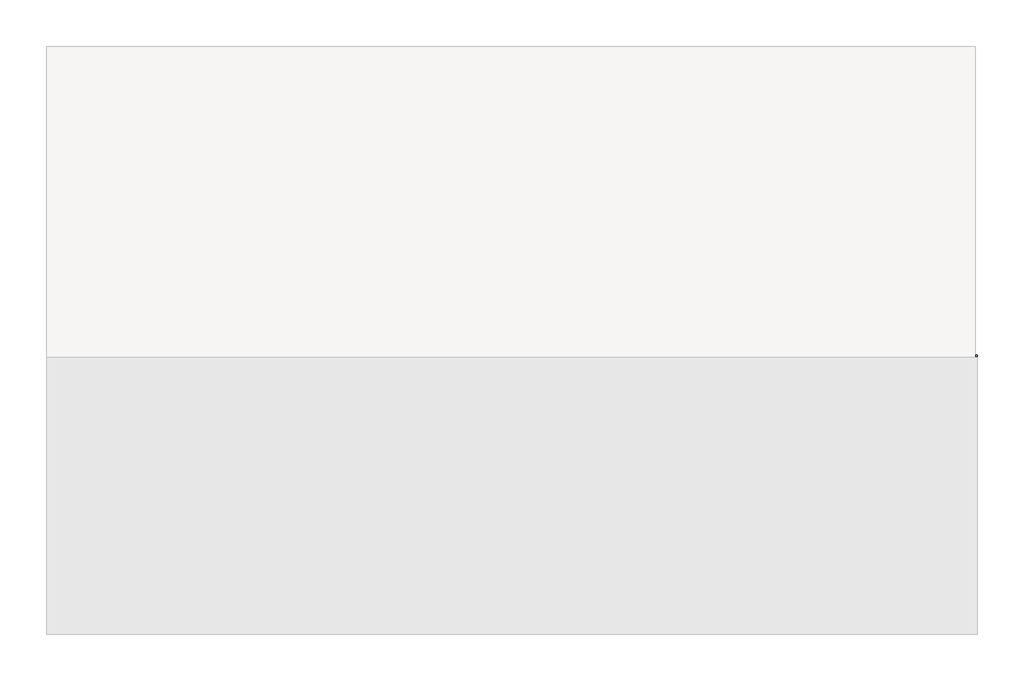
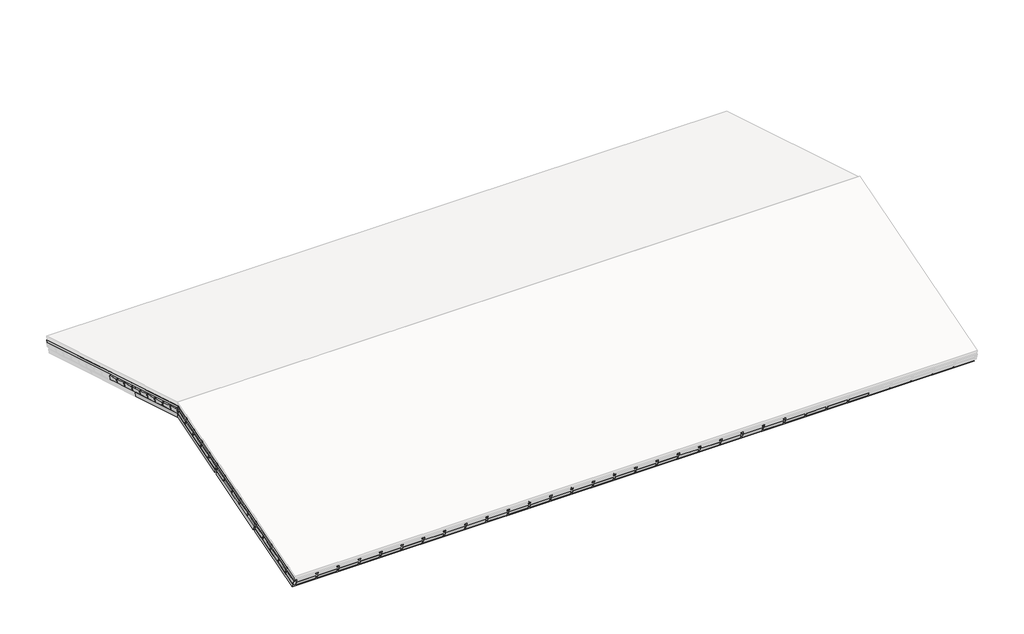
# One storey, part 1 of 57: 66 members, 55 plates.
"""IFC4 building model written with IfcOpenShell, lengths in millimetres."""

from ifc_helpers import new_model, si_unit, origin, place, context, project, spatial, transform, mapped, element, save
from components import rectangular_mullion_e24358e8, rectangular_mullion_02370a10, rectangular_mullion_b1541f78, rectangular_mullion_caibro_64bae1af, rectangular_mullion_caibro_00c653ff, rectangular_mullion_caibro_f101e951, rectangular_mullion_caibro_a4ed09ad, empty_system_panel_vazio_cec06a23, empty_system_panel_vazio_4f9dff83, empty_system_panel_vazio_b184a250, empty_system_panel_vazio_0d2c84fb, empty_system_panel_vazio_8e6531d4

model = new_model("IFC4")

# Units and contexts
model_context = context("Model", 3, world=origin())
ifc_project = project(units=[si_unit("LENGTHUNIT", "METRE", prefix="MILLI")], contexts=[model_context])

# Site, building, storey
site = spatial("IfcSite", under=ifc_project)
building = spatial("IfcBuilding", under=site)
storey = spatial("IfcBuildingStorey", under=building, Name="Nível 2", Elevation=4100.0)

# Members
placement = place(None, origin())
rectangular_mullion_shape = rectangular_mullion_e24358e8(model_context)
element("IfcMember", 1, ObjectType="Rectangular Mullion : Terça", at=placement, inside=storey, context=model_context, shape_type="MappedRepresentation", body=[
    mapped(rectangular_mullion_shape, transform((1726.5285525, -3590.2093854, 4725.758547), x_axis=(0.0, 0.9578262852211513, 0.2873478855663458), y_axis=(0.0, 0.2873478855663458, -0.9578262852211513), z_axis=(-1.0, 0.0, 0.0))),
])
rectangular_mullion_2_shape = rectangular_mullion_02370a10(model_context)
element("IfcMember", 2, ObjectType="Rectangular Mullion : Terça", at=placement, inside=storey, context=model_context, shape_type="MappedRepresentation", body=[
    mapped(rectangular_mullion_2_shape, transform((1726.5285525, -7381.4745968, 3588.3789835), x_axis=(0.0, 0.9578262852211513, 0.2873478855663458), y_axis=(0.0, 0.2873478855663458, -0.9578262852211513), z_axis=(-1.0, 0.0, 0.0))),
])
element("IfcMember", 3, ObjectType="Rectangular Mullion : Terça", at=placement, inside=storey, context=model_context, shape_type="MappedRepresentation", body=[
    mapped(rectangular_mullion_2_shape, transform((1726.5285525, -5500.2093854, 4152.758547), x_axis=(0.0, 0.9578262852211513, 0.2873478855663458), y_axis=(0.0, 0.2873478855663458, -0.9578262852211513), z_axis=(-1.0, 0.0, 0.0))),
])
rectangular_mullion_3_shape = rectangular_mullion_b1541f78(model_context)
element("IfcMember", 4, ObjectType="Rectangular Mullion : Ripa", at=placement, inside=storey, context=model_context, shape_type="MappedRepresentation", body=[
    mapped(rectangular_mullion_3_shape, transform((1726.5285525, -8901.1734357, 3257.75301), x_axis=(0.0, 0.9578262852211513, 0.2873478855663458), y_axis=(0.0, 0.2873478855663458, -0.9578262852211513), z_axis=(-1.0, 0.0, 0.0))),
])
element("IfcMember", 5, ObjectType="Rectangular Mullion : Ripa", at=placement, inside=storey, context=model_context, shape_type="MappedRepresentation", body=[
    mapped(rectangular_mullion_3_shape, transform((1726.5285525, -8524.2818425, 3370.8204879), x_axis=(0.0, 0.9578262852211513, 0.2873478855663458), y_axis=(0.0, 0.2873478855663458, -0.9578262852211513), z_axis=(-1.0, 0.0, 0.0))),
])
element("IfcMember", 6, ObjectType="Rectangular Mullion : Ripa", at=placement, inside=storey, context=model_context, shape_type="MappedRepresentation", body=[
    mapped(rectangular_mullion_3_shape, transform((1726.5285525, -8147.3902494, 3483.8879659), x_axis=(0.0, 0.9578262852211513, 0.2873478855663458), y_axis=(0.0, 0.2873478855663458, -0.9578262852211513), z_axis=(-1.0, 0.0, 0.0))),
])
element("IfcMember", 7, ObjectType="Rectangular Mullion : Ripa", at=placement, inside=storey, context=model_context, shape_type="MappedRepresentation", body=[
    mapped(rectangular_mullion_3_shape, transform((1726.5285525, -7770.4986562, 3596.9554438), x_axis=(0.0, 0.9578262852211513, 0.2873478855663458), y_axis=(0.0, 0.2873478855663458, -0.9578262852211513), z_axis=(-1.0, 0.0, 0.0))),
])
element("IfcMember", 8, ObjectType="Rectangular Mullion : Ripa", at=placement, inside=storey, context=model_context, shape_type="MappedRepresentation", body=[
    mapped(rectangular_mullion_3_shape, transform((1726.5285525, -7393.6070631, 3710.0229217), x_axis=(0.0, 0.9578262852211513, 0.2873478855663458), y_axis=(0.0, 0.2873478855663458, -0.9578262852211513), z_axis=(-1.0, 0.0, 0.0))),
])
element("IfcMember", 9, ObjectType="Rectangular Mullion : Ripa", at=placement, inside=storey, context=model_context, shape_type="MappedRepresentation", body=[
    mapped(rectangular_mullion_3_shape, transform((1726.5285525, -7016.7154699, 3823.0903997), x_axis=(0.0, 0.9578262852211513, 0.2873478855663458), y_axis=(0.0, 0.2873478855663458, -0.9578262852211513), z_axis=(-1.0, 0.0, 0.0))),
])
element("IfcMember", 10, ObjectType="Rectangular Mullion : Ripa", at=placement, inside=storey, context=model_context, shape_type="MappedRepresentation", body=[
    mapped(rectangular_mullion_3_shape, transform((1726.5285525, -6639.8238768, 3936.1578776), x_axis=(0.0, 0.9578262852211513, 0.2873478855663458), y_axis=(0.0, 0.2873478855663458, -0.9578262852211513), z_axis=(-1.0, 0.0, 0.0))),
])
element("IfcMember", 11, ObjectType="Rectangular Mullion : Ripa", at=placement, inside=storey, context=model_context, shape_type="MappedRepresentation", body=[
    mapped(rectangular_mullion_3_shape, transform((1726.5285525, -6262.9322836, 4049.2253556), x_axis=(0.0, 0.9578262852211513, 0.2873478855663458), y_axis=(0.0, 0.2873478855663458, -0.9578262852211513), z_axis=(-1.0, 0.0, 0.0))),
])
element("IfcMember", 12, ObjectType="Rectangular Mullion : Ripa", at=placement, inside=storey, context=model_context, shape_type="MappedRepresentation", body=[
    mapped(rectangular_mullion_3_shape, transform((1726.5285525, -5886.0406905, 4162.2928335), x_axis=(0.0, 0.9578262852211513, 0.2873478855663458), y_axis=(0.0, 0.2873478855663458, -0.9578262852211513), z_axis=(-1.0, 0.0, 0.0))),
])
element("IfcMember", 13, ObjectType="Rectangular Mullion : Ripa", at=placement, inside=storey, context=model_context, shape_type="MappedRepresentation", body=[
    mapped(rectangular_mullion_3_shape, transform((1726.5285525, -5509.1490974, 4275.3603115), x_axis=(0.0, 0.9578262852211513, 0.2873478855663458), y_axis=(0.0, 0.2873478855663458, -0.9578262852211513), z_axis=(-1.0, 0.0, 0.0))),
])
element("IfcMember", 14, ObjectType="Rectangular Mullion : Ripa", at=placement, inside=storey, context=model_context, shape_type="MappedRepresentation", body=[
    mapped(rectangular_mullion_3_shape, transform((1726.5285525, -5132.2575042, 4388.4277894), x_axis=(0.0, 0.9578262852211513, 0.2873478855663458), y_axis=(0.0, 0.2873478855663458, -0.9578262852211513), z_axis=(-1.0, 0.0, 0.0))),
])
element("IfcMember", 15, ObjectType="Rectangular Mullion : Ripa", at=placement, inside=storey, context=model_context, shape_type="MappedRepresentation", body=[
    mapped(rectangular_mullion_3_shape, transform((1726.5285525, -4755.3659111, 4501.4952674), x_axis=(0.0, 0.9578262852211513, 0.2873478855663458), y_axis=(0.0, 0.2873478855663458, -0.9578262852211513), z_axis=(-1.0, 0.0, 0.0))),
])
element("IfcMember", 16, ObjectType="Rectangular Mullion : Ripa", at=placement, inside=storey, context=model_context, shape_type="MappedRepresentation", body=[
    mapped(rectangular_mullion_3_shape, transform((1726.5285525, -4378.4743179, 4614.5627453), x_axis=(0.0, 0.9578262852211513, 0.2873478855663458), y_axis=(0.0, 0.2873478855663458, -0.9578262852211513), z_axis=(-1.0, 0.0, 0.0))),
])
element("IfcMember", 17, ObjectType="Rectangular Mullion : Ripa", at=placement, inside=storey, context=model_context, shape_type="MappedRepresentation", body=[
    mapped(rectangular_mullion_3_shape, transform((1726.5285525, -4001.5827248, 4727.6302232), x_axis=(0.0, 0.9578262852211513, 0.2873478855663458), y_axis=(0.0, 0.2873478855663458, -0.9578262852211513), z_axis=(-1.0, 0.0, 0.0))),
])
element("IfcMember", 18, ObjectType="Rectangular Mullion : Ripa", at=placement, inside=storey, context=model_context, shape_type="MappedRepresentation", body=[
    mapped(rectangular_mullion_3_shape, transform((1726.5285525, -3624.6911316, 4840.6977012), x_axis=(0.0, 0.9578262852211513, 0.2873478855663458), y_axis=(0.0, 0.2873478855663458, -0.9578262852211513), z_axis=(-1.0, 0.0, 0.0))),
])
rectangular_mullion_caibro_shape = rectangular_mullion_caibro_64bae1af(model_context)
element("IfcMember", 19, ObjectType="Rectangular Mullion : Caibro", at=placement, inside=storey, context=model_context, shape_type="MappedRepresentation", body=[
    mapped(rectangular_mullion_caibro_shape, transform((1726.5285525, -9325.9563431, 3130.3181378), x_axis=(-1.0, 0.0, 0.0), y_axis=(0.0, 0.2873478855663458, -0.9578262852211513), z_axis=(0.0, -0.9578262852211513, -0.2873478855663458))),
])
rectangular_mullion_caibro_2_shape = rectangular_mullion_caibro_00c653ff(model_context)
element("IfcMember", 20, ObjectType="Rectangular Mullion : Caibro", at=placement, inside=storey, context=model_context, shape_type="MappedRepresentation", body=[
    mapped(rectangular_mullion_caibro_2_shape, transform((2349.9660528, -3624.6911316, 4840.6977012), x_axis=(1.0, 0.0, 0.0), y_axis=(0.0, 0.2873478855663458, -0.9578262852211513), z_axis=(0.0, 0.9578262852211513, 0.2873478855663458))),
])
element("IfcMember", 21, ObjectType="Rectangular Mullion : Caibro", at=placement, inside=storey, context=model_context, shape_type="MappedRepresentation", body=[
    mapped(rectangular_mullion_caibro_2_shape, transform((2948.4035527, -3624.6911316, 4840.6977012), x_axis=(1.0, 0.0, 0.0), y_axis=(0.0, 0.2873478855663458, -0.9578262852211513), z_axis=(0.0, 0.9578262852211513, 0.2873478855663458))),
])
element("IfcMember", 22, ObjectType="Rectangular Mullion : Caibro", at=placement, inside=storey, context=model_context, shape_type="MappedRepresentation", body=[
    mapped(rectangular_mullion_caibro_2_shape, transform((3546.8410527, -3624.6911316, 4840.6977012), x_axis=(1.0, 0.0, 0.0), y_axis=(0.0, 0.2873478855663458, -0.9578262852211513), z_axis=(0.0, 0.9578262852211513, 0.2873478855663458))),
])
element("IfcMember", 23, ObjectType="Rectangular Mullion : Caibro", at=placement, inside=storey, context=model_context, shape_type="MappedRepresentation", body=[
    mapped(rectangular_mullion_caibro_2_shape, transform((4145.2785527, -3624.6911316, 4840.6977012), x_axis=(1.0, 0.0, 0.0), y_axis=(0.0, 0.2873478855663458, -0.9578262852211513), z_axis=(0.0, 0.9578262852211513, 0.2873478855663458))),
])
element("IfcMember", 24, ObjectType="Rectangular Mullion : Caibro", at=placement, inside=storey, context=model_context, shape_type="MappedRepresentation", body=[
    mapped(rectangular_mullion_caibro_2_shape, transform((4743.7160527, -3624.6911316, 4840.6977012), x_axis=(1.0, 0.0, 0.0), y_axis=(0.0, 0.2873478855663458, -0.9578262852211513), z_axis=(0.0, 0.9578262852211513, 0.2873478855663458))),
])
element("IfcMember", 25, ObjectType="Rectangular Mullion : Caibro", at=placement, inside=storey, context=model_context, shape_type="MappedRepresentation", body=[
    mapped(rectangular_mullion_caibro_2_shape, transform((5342.1535527, -3624.6911316, 4840.6977012), x_axis=(1.0, 0.0, 0.0), y_axis=(0.0, 0.2873478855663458, -0.9578262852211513), z_axis=(0.0, 0.9578262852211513, 0.2873478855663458))),
])
element("IfcMember", 26, ObjectType="Rectangular Mullion : Caibro", at=placement, inside=storey, context=model_context, shape_type="MappedRepresentation", body=[
    mapped(rectangular_mullion_caibro_2_shape, transform((5940.5910526, -3624.6911316, 4840.6977012), x_axis=(1.0, 0.0, 0.0), y_axis=(0.0, 0.2873478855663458, -0.9578262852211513), z_axis=(0.0, 0.9578262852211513, 0.2873478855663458))),
])
element("IfcMember", 27, ObjectType="Rectangular Mullion : Caibro", at=placement, inside=storey, context=model_context, shape_type="MappedRepresentation", body=[
    mapped(rectangular_mullion_caibro_2_shape, transform((6539.0285526, -3624.6911316, 4840.6977012), x_axis=(1.0, 0.0, 0.0), y_axis=(0.0, 0.2873478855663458, -0.9578262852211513), z_axis=(0.0, 0.9578262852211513, 0.2873478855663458))),
])
element("IfcMember", 28, ObjectType="Rectangular Mullion : Caibro", at=placement, inside=storey, context=model_context, shape_type="MappedRepresentation", body=[
    mapped(rectangular_mullion_caibro_2_shape, transform((7137.4660526, -3624.6911316, 4840.6977012), x_axis=(1.0, 0.0, 0.0), y_axis=(0.0, 0.2873478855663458, -0.9578262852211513), z_axis=(0.0, 0.9578262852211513, 0.2873478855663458))),
])
element("IfcMember", 29, ObjectType="Rectangular Mullion : Caibro", at=placement, inside=storey, context=model_context, shape_type="MappedRepresentation", body=[
    mapped(rectangular_mullion_caibro_2_shape, transform((7735.9035526, -3624.6911316, 4840.6977012), x_axis=(1.0, 0.0, 0.0), y_axis=(0.0, 0.2873478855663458, -0.9578262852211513), z_axis=(0.0, 0.9578262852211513, 0.2873478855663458))),
])
element("IfcMember", 30, ObjectType="Rectangular Mullion : Caibro", at=placement, inside=storey, context=model_context, shape_type="MappedRepresentation", body=[
    mapped(rectangular_mullion_caibro_2_shape, transform((8334.3410526, -3624.6911316, 4840.6977012), x_axis=(1.0, 0.0, 0.0), y_axis=(0.0, 0.2873478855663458, -0.9578262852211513), z_axis=(0.0, 0.9578262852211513, 0.2873478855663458))),
])
element("IfcMember", 31, ObjectType="Rectangular Mullion : Caibro", at=placement, inside=storey, context=model_context, shape_type="MappedRepresentation", body=[
    mapped(rectangular_mullion_caibro_2_shape, transform((8932.7785525, -3624.6911316, 4840.6977012), x_axis=(1.0, 0.0, 0.0), y_axis=(0.0, 0.2873478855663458, -0.9578262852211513), z_axis=(0.0, 0.9578262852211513, 0.2873478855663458))),
])
element("IfcMember", 32, ObjectType="Rectangular Mullion : Caibro", at=placement, inside=storey, context=model_context, shape_type="MappedRepresentation", body=[
    mapped(rectangular_mullion_caibro_2_shape, transform((9531.2160525, -3624.6911316, 4840.6977012), x_axis=(1.0, 0.0, 0.0), y_axis=(0.0, 0.2873478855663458, -0.9578262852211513), z_axis=(0.0, 0.9578262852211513, 0.2873478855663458))),
])
element("IfcMember", 33, ObjectType="Rectangular Mullion : Caibro", at=placement, inside=storey, context=model_context, shape_type="MappedRepresentation", body=[
    mapped(rectangular_mullion_caibro_2_shape, transform((10129.6535525, -3624.6911316, 4840.6977012), x_axis=(1.0, 0.0, 0.0), y_axis=(0.0, 0.2873478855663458, -0.9578262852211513), z_axis=(0.0, 0.9578262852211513, 0.2873478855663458))),
])
element("IfcMember", 34, ObjectType="Rectangular Mullion : Caibro", at=placement, inside=storey, context=model_context, shape_type="MappedRepresentation", body=[
    mapped(rectangular_mullion_caibro_2_shape, transform((10728.0910525, -3624.6911316, 4840.6977012), x_axis=(1.0, 0.0, 0.0), y_axis=(0.0, 0.2873478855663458, -0.9578262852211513), z_axis=(0.0, 0.9578262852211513, 0.2873478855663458))),
])
element("IfcMember", 35, ObjectType="Rectangular Mullion : Caibro", at=placement, inside=storey, context=model_context, shape_type="MappedRepresentation", body=[
    mapped(rectangular_mullion_caibro_2_shape, transform((11326.5285525, -3624.6911316, 4840.6977012), x_axis=(1.0, 0.0, 0.0), y_axis=(0.0, 0.28734788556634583, -0.9578262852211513), z_axis=(0.0, 0.9578262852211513, 0.28734788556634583))),
])
element("IfcMember", 36, ObjectType="Rectangular Mullion : Caibro", at=placement, inside=storey, context=model_context, shape_type="MappedRepresentation", body=[
    mapped(rectangular_mullion_caibro_2_shape, transform((11924.9660525, -3624.6911316, 4840.6977012), x_axis=(1.0, 0.0, 0.0), y_axis=(0.0, 0.28734788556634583, -0.9578262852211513), z_axis=(0.0, 0.9578262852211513, 0.28734788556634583))),
])
element("IfcMember", 37, ObjectType="Rectangular Mullion : Caibro", at=placement, inside=storey, context=model_context, shape_type="MappedRepresentation", body=[
    mapped(rectangular_mullion_caibro_2_shape, transform((12523.4035524, -3624.6911316, 4840.6977012), x_axis=(1.0, 0.0, 0.0), y_axis=(0.0, 0.28734788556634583, -0.9578262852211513), z_axis=(0.0, 0.9578262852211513, 0.28734788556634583))),
])
element("IfcMember", 38, ObjectType="Rectangular Mullion : Caibro", at=placement, inside=storey, context=model_context, shape_type="MappedRepresentation", body=[
    mapped(rectangular_mullion_caibro_2_shape, transform((13121.8410524, -3624.6911316, 4840.6977012), x_axis=(1.0, 0.0, 0.0), y_axis=(0.0, 0.28734788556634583, -0.9578262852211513), z_axis=(0.0, 0.9578262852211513, 0.28734788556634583))),
])
element("IfcMember", 39, ObjectType="Rectangular Mullion : Caibro", at=placement, inside=storey, context=model_context, shape_type="MappedRepresentation", body=[
    mapped(rectangular_mullion_caibro_2_shape, transform((13720.2785524, -3624.6911316, 4840.6977012), x_axis=(1.0, 0.0, 0.0), y_axis=(0.0, 0.28734788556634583, -0.9578262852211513), z_axis=(0.0, 0.9578262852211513, 0.28734788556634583))),
])
element("IfcMember", 40, ObjectType="Rectangular Mullion : Caibro", at=placement, inside=storey, context=model_context, shape_type="MappedRepresentation", body=[
    mapped(rectangular_mullion_caibro_2_shape, transform((14318.7160524, -3624.6911316, 4840.6977012), x_axis=(1.0, 0.0, 0.0), y_axis=(0.0, 0.2873478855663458, -0.9578262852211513), z_axis=(0.0, 0.9578262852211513, 0.2873478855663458))),
])
element("IfcMember", 41, ObjectType="Rectangular Mullion : Caibro", at=placement, inside=storey, context=model_context, shape_type="MappedRepresentation", body=[
    mapped(rectangular_mullion_caibro_2_shape, transform((14917.1535524, -3624.6911316, 4840.6977012), x_axis=(1.0, 0.0, 0.0), y_axis=(0.0, 0.2873478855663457, -0.9578262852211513), z_axis=(0.0, 0.9578262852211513, 0.2873478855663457))),
])
element("IfcMember", 42, ObjectType="Rectangular Mullion : Caibro", at=placement, inside=storey, context=model_context, shape_type="MappedRepresentation", body=[
    mapped(rectangular_mullion_caibro_2_shape, transform((15515.5910523, -3624.6911316, 4840.6977012), x_axis=(1.0, 0.0, 0.0), y_axis=(0.0, 0.2873478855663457, -0.9578262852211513), z_axis=(0.0, 0.9578262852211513, 0.2873478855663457))),
])
rectangular_mullion_caibro_3_shape = rectangular_mullion_caibro_f101e951(model_context)
element("IfcMember", 43, ObjectType="Rectangular Mullion : Caibro", at=placement, inside=storey, context=model_context, shape_type="MappedRepresentation", body=[
    mapped(rectangular_mullion_caibro_3_shape, transform((1726.5285525, -3624.6911316, 4840.7602012), x_axis=(-1.0, 0.0, 0.0), y_axis=(0.0, -0.2873478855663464, -0.9578262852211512), z_axis=(0.0, -0.9578262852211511, 0.28734788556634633))),
])
rectangular_mullion_caibro_4_shape = rectangular_mullion_caibro_a4ed09ad(model_context)
element("IfcMember", 44, ObjectType="Rectangular Mullion : Caibro", at=placement, inside=storey, context=model_context, shape_type="MappedRepresentation", body=[
    mapped(rectangular_mullion_caibro_4_shape, transform((15479.6535523, -3624.6911316, 4840.7602012), x_axis=(-1.0, 0.0, 0.0), y_axis=(0.0, -0.2873478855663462, -0.9578262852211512), z_axis=(0.0, -0.9578262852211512, 0.2873478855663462))),
])
element("IfcMember", 45, ObjectType="Rectangular Mullion : Caibro", at=placement, inside=storey, context=model_context, shape_type="MappedRepresentation", body=[
    mapped(rectangular_mullion_caibro_4_shape, transform((14882.7785524, -3624.6911316, 4840.7602012), x_axis=(-1.0, 0.0, 0.0), y_axis=(0.0, -0.2873478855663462, -0.9578262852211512), z_axis=(0.0, -0.9578262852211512, 0.2873478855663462))),
])
element("IfcMember", 46, ObjectType="Rectangular Mullion : Caibro", at=placement, inside=storey, context=model_context, shape_type="MappedRepresentation", body=[
    mapped(rectangular_mullion_caibro_4_shape, transform((14285.9035524, -3624.6911316, 4840.7602012), x_axis=(-1.0, 0.0, 0.0), y_axis=(0.0, -0.2873478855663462, -0.9578262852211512), z_axis=(0.0, -0.9578262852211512, 0.2873478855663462))),
])
element("IfcMember", 47, ObjectType="Rectangular Mullion : Caibro", at=placement, inside=storey, context=model_context, shape_type="MappedRepresentation", body=[
    mapped(rectangular_mullion_caibro_4_shape, transform((13689.0285524, -3624.6911316, 4840.7602012), x_axis=(-1.0, 0.0, 0.0), y_axis=(0.0, -0.2873478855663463, -0.9578262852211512), z_axis=(0.0, -0.9578262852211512, 0.2873478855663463))),
])
element("IfcMember", 48, ObjectType="Rectangular Mullion : Caibro", at=placement, inside=storey, context=model_context, shape_type="MappedRepresentation", body=[
    mapped(rectangular_mullion_caibro_4_shape, transform((13092.1535524, -3624.6911316, 4840.7602012), x_axis=(-1.0, 0.0, 0.0), y_axis=(0.0, -0.2873478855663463, -0.9578262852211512), z_axis=(0.0, -0.9578262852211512, 0.2873478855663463))),
])
element("IfcMember", 49, ObjectType="Rectangular Mullion : Caibro", at=placement, inside=storey, context=model_context, shape_type="MappedRepresentation", body=[
    mapped(rectangular_mullion_caibro_4_shape, transform((12495.2785524, -3624.6911316, 4840.7602012), x_axis=(-1.0, 0.0, 0.0), y_axis=(0.0, -0.2873478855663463, -0.9578262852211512), z_axis=(0.0, -0.9578262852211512, 0.2873478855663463))),
])
element("IfcMember", 50, ObjectType="Rectangular Mullion : Caibro", at=placement, inside=storey, context=model_context, shape_type="MappedRepresentation", body=[
    mapped(rectangular_mullion_caibro_4_shape, transform((11898.4035525, -3624.6911316, 4840.7602012), x_axis=(-1.0, 0.0, 0.0), y_axis=(0.0, -0.2873478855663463, -0.9578262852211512), z_axis=(0.0, -0.9578262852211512, 0.2873478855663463))),
])
element("IfcMember", 51, ObjectType="Rectangular Mullion : Caibro", at=placement, inside=storey, context=model_context, shape_type="MappedRepresentation", body=[
    mapped(rectangular_mullion_caibro_4_shape, transform((11301.5285525, -3624.6911316, 4840.7602012), x_axis=(-1.0, 0.0, 0.0), y_axis=(0.0, -0.2873478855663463, -0.9578262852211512), z_axis=(0.0, -0.9578262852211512, 0.2873478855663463))),
])
element("IfcMember", 52, ObjectType="Rectangular Mullion : Caibro", at=placement, inside=storey, context=model_context, shape_type="MappedRepresentation", body=[
    mapped(rectangular_mullion_caibro_4_shape, transform((10704.6535525, -3624.6911316, 4840.7602012), x_axis=(-1.0, 0.0, 0.0), y_axis=(0.0, -0.2873478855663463, -0.9578262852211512), z_axis=(0.0, -0.9578262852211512, 0.2873478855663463))),
])
element("IfcMember", 53, ObjectType="Rectangular Mullion : Caibro", at=placement, inside=storey, context=model_context, shape_type="MappedRepresentation", body=[
    mapped(rectangular_mullion_caibro_4_shape, transform((10107.7785525, -3624.6911316, 4840.7602012), x_axis=(-1.0, 0.0, 0.0), y_axis=(0.0, -0.2873478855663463, -0.9578262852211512), z_axis=(0.0, -0.9578262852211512, 0.2873478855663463))),
])
element("IfcMember", 54, ObjectType="Rectangular Mullion : Caibro", at=placement, inside=storey, context=model_context, shape_type="MappedRepresentation", body=[
    mapped(rectangular_mullion_caibro_4_shape, transform((9510.9035525, -3624.6911316, 4840.7602012), x_axis=(-1.0, 0.0, 0.0), y_axis=(0.0, -0.2873478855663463, -0.9578262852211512), z_axis=(0.0, -0.9578262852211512, 0.2873478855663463))),
])
element("IfcMember", 55, ObjectType="Rectangular Mullion : Caibro", at=placement, inside=storey, context=model_context, shape_type="MappedRepresentation", body=[
    mapped(rectangular_mullion_caibro_4_shape, transform((8914.0285525, -3624.6911316, 4840.7602012), x_axis=(-1.0, 0.0, 0.0), y_axis=(0.0, -0.2873478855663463, -0.9578262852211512), z_axis=(0.0, -0.9578262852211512, 0.2873478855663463))),
])
element("IfcMember", 56, ObjectType="Rectangular Mullion : Caibro", at=placement, inside=storey, context=model_context, shape_type="MappedRepresentation", body=[
    mapped(rectangular_mullion_caibro_4_shape, transform((8317.1535526, -3624.6911316, 4840.7602012), x_axis=(-1.0, 0.0, 0.0), y_axis=(0.0, -0.2873478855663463, -0.9578262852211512), z_axis=(0.0, -0.9578262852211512, 0.2873478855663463))),
])
element("IfcMember", 57, ObjectType="Rectangular Mullion : Caibro", at=placement, inside=storey, context=model_context, shape_type="MappedRepresentation", body=[
    mapped(rectangular_mullion_caibro_4_shape, transform((7720.2785526, -3624.6911316, 4840.7602012), x_axis=(-1.0, 0.0, 0.0), y_axis=(0.0, -0.2873478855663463, -0.9578262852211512), z_axis=(0.0, -0.9578262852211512, 0.2873478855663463))),
])
element("IfcMember", 58, ObjectType="Rectangular Mullion : Caibro", at=placement, inside=storey, context=model_context, shape_type="MappedRepresentation", body=[
    mapped(rectangular_mullion_caibro_4_shape, transform((7123.4035526, -3624.6911316, 4840.7602012), x_axis=(-1.0, 0.0, 0.0), y_axis=(0.0, -0.2873478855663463, -0.9578262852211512), z_axis=(0.0, -0.9578262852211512, 0.2873478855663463))),
])
element("IfcMember", 59, ObjectType="Rectangular Mullion : Caibro", at=placement, inside=storey, context=model_context, shape_type="MappedRepresentation", body=[
    mapped(rectangular_mullion_caibro_4_shape, transform((6526.5285526, -3624.6911316, 4840.7602012), x_axis=(-1.0, 0.0, 0.0), y_axis=(0.0, -0.2873478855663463, -0.9578262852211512), z_axis=(0.0, -0.9578262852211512, 0.2873478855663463))),
])
element("IfcMember", 60, ObjectType="Rectangular Mullion : Caibro", at=placement, inside=storey, context=model_context, shape_type="MappedRepresentation", body=[
    mapped(rectangular_mullion_caibro_4_shape, transform((5929.6535526, -3624.6911316, 4840.7602012), x_axis=(-1.0, 0.0, 0.0), y_axis=(0.0, -0.2873478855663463, -0.9578262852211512), z_axis=(0.0, -0.9578262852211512, 0.2873478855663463))),
])
element("IfcMember", 61, ObjectType="Rectangular Mullion : Caibro", at=placement, inside=storey, context=model_context, shape_type="MappedRepresentation", body=[
    mapped(rectangular_mullion_caibro_4_shape, transform((5332.7785527, -3624.6911316, 4840.7602012), x_axis=(-1.0, 0.0, 0.0), y_axis=(0.0, -0.2873478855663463, -0.9578262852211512), z_axis=(0.0, -0.9578262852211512, 0.2873478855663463))),
])
element("IfcMember", 62, ObjectType="Rectangular Mullion : Caibro", at=placement, inside=storey, context=model_context, shape_type="MappedRepresentation", body=[
    mapped(rectangular_mullion_caibro_4_shape, transform((4735.9035527, -3624.6911316, 4840.7602012), x_axis=(-1.0, 0.0, 0.0), y_axis=(0.0, -0.2873478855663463, -0.9578262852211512), z_axis=(0.0, -0.9578262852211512, 0.2873478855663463))),
])
element("IfcMember", 63, ObjectType="Rectangular Mullion : Caibro", at=placement, inside=storey, context=model_context, shape_type="MappedRepresentation", body=[
    mapped(rectangular_mullion_caibro_4_shape, transform((4139.0285527, -3624.6911316, 4840.7602012), x_axis=(-1.0, 0.0, 0.0), y_axis=(0.0, -0.2873478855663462, -0.9578262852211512), z_axis=(0.0, -0.9578262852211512, 0.2873478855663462))),
])
element("IfcMember", 64, ObjectType="Rectangular Mullion : Caibro", at=placement, inside=storey, context=model_context, shape_type="MappedRepresentation", body=[
    mapped(rectangular_mullion_caibro_4_shape, transform((3542.1535527, -3624.6911316, 4840.7602012), x_axis=(-1.0, 0.0, 0.0), y_axis=(0.0, -0.2873478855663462, -0.9578262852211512), z_axis=(0.0, -0.9578262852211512, 0.2873478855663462))),
])
element("IfcMember", 65, ObjectType="Rectangular Mullion : Caibro", at=placement, inside=storey, context=model_context, shape_type="MappedRepresentation", body=[
    mapped(rectangular_mullion_caibro_4_shape, transform((2945.2785527, -3624.6911316, 4840.7602012), x_axis=(-1.0, 0.0, 0.0), y_axis=(0.0, -0.2873478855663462, -0.9578262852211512), z_axis=(0.0, -0.9578262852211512, 0.2873478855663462))),
])
element("IfcMember", 66, ObjectType="Rectangular Mullion : Caibro", at=placement, inside=storey, context=model_context, shape_type="MappedRepresentation", body=[
    mapped(rectangular_mullion_caibro_4_shape, transform((2348.4035528, -3624.6911316, 4840.7602012), x_axis=(-1.0, 0.0, 0.0), y_axis=(0.0, -0.2873478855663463, -0.9578262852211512), z_axis=(0.0, -0.9578262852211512, 0.2873478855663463))),
])

# Plates
empty_system_panel_vazio_shape = empty_system_panel_vazio_cec06a23(model_context)
element("IfcPlate", 67, ObjectType="Empty System Panel : Vazio", at=placement, inside=storey, context=model_context, shape_type="MappedRepresentation", body=[
    mapped(empty_system_panel_vazio_shape, transform((2050.7473026, -9325.9563431, 3130.3181378), x_axis=(1.0, 0.0, 0.0), y_axis=(0.0, 0.2873478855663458, -0.9578262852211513), z_axis=(0.0, 0.9578262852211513, 0.2873478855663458))),
])
element("IfcPlate", 68, ObjectType="Empty System Panel : Vazio", at=placement, inside=storey, context=model_context, shape_type="MappedRepresentation", body=[
    mapped(empty_system_panel_vazio_shape, transform((2649.1848027, -9325.9563431, 3130.3181378), x_axis=(1.0, 0.0, 0.0), y_axis=(0.0, 0.2873478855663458, -0.9578262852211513), z_axis=(0.0, 0.9578262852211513, 0.2873478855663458))),
])
element("IfcPlate", 69, ObjectType="Empty System Panel : Vazio", at=placement, inside=storey, context=model_context, shape_type="MappedRepresentation", body=[
    mapped(empty_system_panel_vazio_shape, transform((3247.6223027, -9325.9563431, 3130.3181378), x_axis=(1.0, 0.0, 0.0), y_axis=(0.0, 0.2873478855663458, -0.9578262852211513), z_axis=(0.0, 0.9578262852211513, 0.2873478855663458))),
])
element("IfcPlate", 70, ObjectType="Empty System Panel : Vazio", at=placement, inside=storey, context=model_context, shape_type="MappedRepresentation", body=[
    mapped(empty_system_panel_vazio_shape, transform((3846.0598027, -9325.9563431, 3130.3181378), x_axis=(1.0, 0.0, 0.0), y_axis=(0.0, 0.2873478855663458, -0.9578262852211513), z_axis=(0.0, 0.9578262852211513, 0.2873478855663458))),
])
element("IfcPlate", 71, ObjectType="Empty System Panel : Vazio", at=placement, inside=storey, context=model_context, shape_type="MappedRepresentation", body=[
    mapped(empty_system_panel_vazio_shape, transform((4444.4973027, -9325.9563431, 3130.3181378), x_axis=(1.0, 0.0, 0.0), y_axis=(0.0, 0.2873478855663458, -0.9578262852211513), z_axis=(0.0, 0.9578262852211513, 0.2873478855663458))),
])
element("IfcPlate", 72, ObjectType="Empty System Panel : Vazio", at=placement, inside=storey, context=model_context, shape_type="MappedRepresentation", body=[
    mapped(empty_system_panel_vazio_shape, transform((5042.9348027, -9325.9563431, 3130.3181378), x_axis=(1.0, 0.0, 0.0), y_axis=(0.0, 0.2873478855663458, -0.9578262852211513), z_axis=(0.0, 0.9578262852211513, 0.2873478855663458))),
])
element("IfcPlate", 73, ObjectType="Empty System Panel : Vazio", at=placement, inside=storey, context=model_context, shape_type="MappedRepresentation", body=[
    mapped(empty_system_panel_vazio_shape, transform((5641.3723027, -9325.9563431, 3130.3181378), x_axis=(1.0, 0.0, 0.0), y_axis=(0.0, 0.2873478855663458, -0.9578262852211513), z_axis=(0.0, 0.9578262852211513, 0.2873478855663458))),
])
element("IfcPlate", 74, ObjectType="Empty System Panel : Vazio", at=placement, inside=storey, context=model_context, shape_type="MappedRepresentation", body=[
    mapped(empty_system_panel_vazio_shape, transform((6239.8098026, -9325.9563431, 3130.3181378), x_axis=(1.0, 0.0, 0.0), y_axis=(0.0, 0.2873478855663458, -0.9578262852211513), z_axis=(0.0, 0.9578262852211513, 0.2873478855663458))),
])
element("IfcPlate", 75, ObjectType="Empty System Panel : Vazio", at=placement, inside=storey, context=model_context, shape_type="MappedRepresentation", body=[
    mapped(empty_system_panel_vazio_shape, transform((6838.2473026, -9325.9563431, 3130.3181378), x_axis=(1.0, 0.0, 0.0), y_axis=(0.0, 0.2873478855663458, -0.9578262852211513), z_axis=(0.0, 0.9578262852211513, 0.2873478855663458))),
])
element("IfcPlate", 76, ObjectType="Empty System Panel : Vazio", at=placement, inside=storey, context=model_context, shape_type="MappedRepresentation", body=[
    mapped(empty_system_panel_vazio_shape, transform((7436.6848026, -9325.9563431, 3130.3181378), x_axis=(1.0, 0.0, 0.0), y_axis=(0.0, 0.2873478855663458, -0.9578262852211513), z_axis=(0.0, 0.9578262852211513, 0.2873478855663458))),
])
element("IfcPlate", 77, ObjectType="Empty System Panel : Vazio", at=placement, inside=storey, context=model_context, shape_type="MappedRepresentation", body=[
    mapped(empty_system_panel_vazio_shape, transform((8035.1223026, -9325.9563431, 3130.3181378), x_axis=(1.0, 0.0, 0.0), y_axis=(0.0, 0.2873478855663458, -0.9578262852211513), z_axis=(0.0, 0.9578262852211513, 0.2873478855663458))),
])
element("IfcPlate", 78, ObjectType="Empty System Panel : Vazio", at=placement, inside=storey, context=model_context, shape_type="MappedRepresentation", body=[
    mapped(empty_system_panel_vazio_shape, transform((8633.5598026, -9325.9563431, 3130.3181378), x_axis=(1.0, 0.0, 0.0), y_axis=(0.0, 0.2873478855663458, -0.9578262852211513), z_axis=(0.0, 0.9578262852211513, 0.2873478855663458))),
])
element("IfcPlate", 79, ObjectType="Empty System Panel : Vazio", at=placement, inside=storey, context=model_context, shape_type="MappedRepresentation", body=[
    mapped(empty_system_panel_vazio_shape, transform((9231.9973025, -9325.9563431, 3130.3181378), x_axis=(1.0, 0.0, 0.0), y_axis=(0.0, 0.2873478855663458, -0.9578262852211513), z_axis=(0.0, 0.9578262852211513, 0.2873478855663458))),
])
element("IfcPlate", 80, ObjectType="Empty System Panel : Vazio", at=placement, inside=storey, context=model_context, shape_type="MappedRepresentation", body=[
    mapped(empty_system_panel_vazio_shape, transform((9830.4348025, -9325.9563431, 3130.3181378), x_axis=(1.0, 0.0, 0.0), y_axis=(0.0, 0.2873478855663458, -0.9578262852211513), z_axis=(0.0, 0.9578262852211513, 0.2873478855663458))),
])
element("IfcPlate", 81, ObjectType="Empty System Panel : Vazio", at=placement, inside=storey, context=model_context, shape_type="MappedRepresentation", body=[
    mapped(empty_system_panel_vazio_shape, transform((10428.8723025, -9325.9563431, 3130.3181378), x_axis=(1.0, 0.0, 0.0), y_axis=(0.0, 0.2873478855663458, -0.9578262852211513), z_axis=(0.0, 0.9578262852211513, 0.2873478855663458))),
])
element("IfcPlate", 82, ObjectType="Empty System Panel : Vazio", at=placement, inside=storey, context=model_context, shape_type="MappedRepresentation", body=[
    mapped(empty_system_panel_vazio_shape, transform((11027.3098025, -9325.9563431, 3130.3181378), x_axis=(1.0, 0.0, 0.0), y_axis=(0.0, 0.2873478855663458, -0.9578262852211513), z_axis=(0.0, 0.9578262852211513, 0.2873478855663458))),
])
element("IfcPlate", 83, ObjectType="Empty System Panel : Vazio", at=placement, inside=storey, context=model_context, shape_type="MappedRepresentation", body=[
    mapped(empty_system_panel_vazio_shape, transform((11625.7473025, -9325.9563431, 3130.3181378), x_axis=(1.0, 0.0, 0.0), y_axis=(0.0, 0.2873478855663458, -0.9578262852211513), z_axis=(0.0, 0.9578262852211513, 0.2873478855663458))),
])
element("IfcPlate", 84, ObjectType="Empty System Panel : Vazio", at=placement, inside=storey, context=model_context, shape_type="MappedRepresentation", body=[
    mapped(empty_system_panel_vazio_shape, transform((12224.1848024, -9325.9563431, 3130.3181378), x_axis=(1.0, 0.0, 0.0), y_axis=(0.0, 0.2873478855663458, -0.9578262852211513), z_axis=(0.0, 0.9578262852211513, 0.2873478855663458))),
])
element("IfcPlate", 85, ObjectType="Empty System Panel : Vazio", at=placement, inside=storey, context=model_context, shape_type="MappedRepresentation", body=[
    mapped(empty_system_panel_vazio_shape, transform((12822.6223024, -9325.9563431, 3130.3181378), x_axis=(1.0, 0.0, 0.0), y_axis=(0.0, 0.2873478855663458, -0.9578262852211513), z_axis=(0.0, 0.9578262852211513, 0.2873478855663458))),
])
element("IfcPlate", 86, ObjectType="Empty System Panel : Vazio", at=placement, inside=storey, context=model_context, shape_type="MappedRepresentation", body=[
    mapped(empty_system_panel_vazio_shape, transform((13421.0598024, -9325.9563431, 3130.3181378), x_axis=(1.0, 0.0, 0.0), y_axis=(0.0, 0.2873478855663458, -0.9578262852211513), z_axis=(0.0, 0.9578262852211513, 0.2873478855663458))),
])
element("IfcPlate", 87, ObjectType="Empty System Panel : Vazio", at=placement, inside=storey, context=model_context, shape_type="MappedRepresentation", body=[
    mapped(empty_system_panel_vazio_shape, transform((14019.4973024, -9325.9563431, 3130.3181378), x_axis=(1.0, 0.0, 0.0), y_axis=(0.0, 0.2873478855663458, -0.9578262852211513), z_axis=(0.0, 0.9578262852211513, 0.2873478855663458))),
])
element("IfcPlate", 88, ObjectType="Empty System Panel : Vazio", at=placement, inside=storey, context=model_context, shape_type="MappedRepresentation", body=[
    mapped(empty_system_panel_vazio_shape, transform((14617.9348024, -9325.9563431, 3130.3181378), x_axis=(1.0, 0.0, 0.0), y_axis=(0.0, 0.2873478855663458, -0.9578262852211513), z_axis=(0.0, 0.9578262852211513, 0.2873478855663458))),
])
element("IfcPlate", 89, ObjectType="Empty System Panel : Vazio", at=placement, inside=storey, context=model_context, shape_type="MappedRepresentation", body=[
    mapped(empty_system_panel_vazio_shape, transform((15216.3723023, -9325.9563431, 3130.3181378), x_axis=(1.0, 0.0, 0.0), y_axis=(0.0, 0.2873478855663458, -0.9578262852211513), z_axis=(0.0, 0.9578262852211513, 0.2873478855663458))),
])
element("IfcPlate", 90, ObjectType="Empty System Panel : Vazio", at=placement, inside=storey, context=model_context, shape_type="MappedRepresentation", body=[
    mapped(empty_system_panel_vazio_shape, transform((15814.8098023, -9325.9563431, 3130.3181378), x_axis=(1.0, 0.0, 0.0), y_axis=(0.0, 0.2873478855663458, -0.9578262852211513), z_axis=(0.0, 0.9578262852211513, 0.2873478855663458))),
])
element("IfcPlate", 91, ObjectType="Empty System Panel : Vazio", at=placement, inside=storey, context=model_context, shape_type="MappedRepresentation", body=[
    mapped(empty_system_panel_vazio_shape, transform((16413.2473023, -9325.9563431, 3130.3181378), x_axis=(1.0, 0.0, 0.0), y_axis=(0.0, 0.2873478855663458, -0.9578262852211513), z_axis=(0.0, 0.9578262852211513, 0.2873478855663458))),
])
element("IfcPlate", 92, ObjectType="Empty System Panel : Vazio", at=placement, inside=storey, context=model_context, shape_type="MappedRepresentation", body=[
    mapped(empty_system_panel_vazio_shape, transform((17011.6848023, -9325.9563431, 3130.3181378), x_axis=(1.0, 0.0, 0.0), y_axis=(0.0, 0.2873478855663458, -0.9578262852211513), z_axis=(0.0, 0.9578262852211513, 0.2873478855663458))),
])
element("IfcPlate", 93, ObjectType="Empty System Panel : Vazio", at=placement, inside=storey, context=model_context, shape_type="MappedRepresentation", body=[
    mapped(empty_system_panel_vazio_shape, transform((17610.1223023, -9325.9563431, 3130.3181378), x_axis=(1.0, 0.0, 0.0), y_axis=(0.0, 0.2873478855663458, -0.9578262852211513), z_axis=(0.0, 0.9578262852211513, 0.2873478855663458))),
])
empty_system_panel_vazio_2_shape = empty_system_panel_vazio_4f9dff83(model_context)
element("IfcPlate", 94, ObjectType="Empty System Panel : Vazio", at=placement, inside=storey, context=model_context, shape_type="MappedRepresentation", body=[
    mapped(empty_system_panel_vazio_2_shape, transform((11326.5285525, -9234.0050197, 3032.6198567), x_axis=(1.0, 0.0, 0.0), y_axis=(0.0, 0.2873478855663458, -0.9578262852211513), z_axis=(0.0, 0.9578262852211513, 0.2873478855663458))),
])
element("IfcPlate", 95, ObjectType="Empty System Panel : Vazio", at=placement, inside=storey, context=model_context, shape_type="MappedRepresentation", body=[
    mapped(empty_system_panel_vazio_2_shape, transform((11326.5285525, -7352.7398082, 3596.9994201), x_axis=(1.0, 0.0, 0.0), y_axis=(0.0, 0.2873478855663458, -0.9578262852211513), z_axis=(0.0, 0.9578262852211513, 0.2873478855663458))),
])
element("IfcPlate", 96, ObjectType="Empty System Panel : Vazio", at=placement, inside=storey, context=model_context, shape_type="MappedRepresentation", body=[
    mapped(empty_system_panel_vazio_2_shape, transform((11326.5285525, -5471.4745968, 4161.3789835), x_axis=(1.0, 0.0, 0.0), y_axis=(0.0, 0.2873478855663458, -0.9578262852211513), z_axis=(0.0, 0.9578262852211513, 0.2873478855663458))),
])
empty_system_panel_vazio_3_shape = empty_system_panel_vazio_b184a250(model_context)
element("IfcPlate", 97, ObjectType="Empty System Panel : Vazio", at=placement, inside=storey, context=model_context, shape_type="MappedRepresentation", body=[
    mapped(empty_system_panel_vazio_3_shape, transform((11326.5285525, -9278.0650288, 3144.685532), x_axis=(1.0, 0.0, 0.0), y_axis=(0.0, 0.2873478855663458, -0.9578262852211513), z_axis=(0.0, 0.9578262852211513, 0.2873478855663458))),
])
element("IfcPlate", 98, ObjectType="Empty System Panel : Vazio", at=placement, inside=storey, context=model_context, shape_type="MappedRepresentation", body=[
    mapped(empty_system_panel_vazio_3_shape, transform((11326.5285525, -8901.1734357, 3257.75301), x_axis=(1.0, 0.0, 0.0), y_axis=(0.0, 0.2873478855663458, -0.9578262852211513), z_axis=(0.0, 0.9578262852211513, 0.2873478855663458))),
])
element("IfcPlate", 99, ObjectType="Empty System Panel : Vazio", at=placement, inside=storey, context=model_context, shape_type="MappedRepresentation", body=[
    mapped(empty_system_panel_vazio_3_shape, transform((11326.5285525, -8524.2818425, 3370.8204879), x_axis=(1.0, 0.0, 0.0), y_axis=(0.0, 0.2873478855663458, -0.9578262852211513), z_axis=(0.0, 0.9578262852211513, 0.2873478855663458))),
])
element("IfcPlate", 100, ObjectType="Empty System Panel : Vazio", at=placement, inside=storey, context=model_context, shape_type="MappedRepresentation", body=[
    mapped(empty_system_panel_vazio_3_shape, transform((11326.5285525, -8147.3902494, 3483.8879659), x_axis=(1.0, 0.0, 0.0), y_axis=(0.0, 0.2873478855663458, -0.9578262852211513), z_axis=(0.0, 0.9578262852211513, 0.2873478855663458))),
])
element("IfcPlate", 101, ObjectType="Empty System Panel : Vazio", at=placement, inside=storey, context=model_context, shape_type="MappedRepresentation", body=[
    mapped(empty_system_panel_vazio_3_shape, transform((11326.5285525, -7770.4986562, 3596.9554438), x_axis=(1.0, 0.0, 0.0), y_axis=(0.0, 0.2873478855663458, -0.9578262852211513), z_axis=(0.0, 0.9578262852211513, 0.2873478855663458))),
])
element("IfcPlate", 102, ObjectType="Empty System Panel : Vazio", at=placement, inside=storey, context=model_context, shape_type="MappedRepresentation", body=[
    mapped(empty_system_panel_vazio_3_shape, transform((11326.5285525, -7393.6070631, 3710.0229217), x_axis=(1.0, 0.0, 0.0), y_axis=(0.0, 0.2873478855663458, -0.9578262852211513), z_axis=(0.0, 0.9578262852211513, 0.2873478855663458))),
])
element("IfcPlate", 103, ObjectType="Empty System Panel : Vazio", at=placement, inside=storey, context=model_context, shape_type="MappedRepresentation", body=[
    mapped(empty_system_panel_vazio_3_shape, transform((11326.5285525, -7016.7154699, 3823.0903997), x_axis=(1.0, 0.0, 0.0), y_axis=(0.0, 0.2873478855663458, -0.9578262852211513), z_axis=(0.0, 0.9578262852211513, 0.2873478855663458))),
])
element("IfcPlate", 104, ObjectType="Empty System Panel : Vazio", at=placement, inside=storey, context=model_context, shape_type="MappedRepresentation", body=[
    mapped(empty_system_panel_vazio_3_shape, transform((11326.5285525, -6639.8238768, 3936.1578776), x_axis=(1.0, 0.0, 0.0), y_axis=(0.0, 0.2873478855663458, -0.9578262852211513), z_axis=(0.0, 0.9578262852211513, 0.2873478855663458))),
])
element("IfcPlate", 105, ObjectType="Empty System Panel : Vazio", at=placement, inside=storey, context=model_context, shape_type="MappedRepresentation", body=[
    mapped(empty_system_panel_vazio_3_shape, transform((11326.5285525, -6262.9322836, 4049.2253556), x_axis=(1.0, 0.0, 0.0), y_axis=(0.0, 0.2873478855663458, -0.9578262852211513), z_axis=(0.0, 0.9578262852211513, 0.2873478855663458))),
])
element("IfcPlate", 106, ObjectType="Empty System Panel : Vazio", at=placement, inside=storey, context=model_context, shape_type="MappedRepresentation", body=[
    mapped(empty_system_panel_vazio_3_shape, transform((11326.5285525, -5886.0406905, 4162.2928335), x_axis=(1.0, 0.0, 0.0), y_axis=(0.0, 0.2873478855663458, -0.9578262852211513), z_axis=(0.0, 0.9578262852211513, 0.2873478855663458))),
])
element("IfcPlate", 107, ObjectType="Empty System Panel : Vazio", at=placement, inside=storey, context=model_context, shape_type="MappedRepresentation", body=[
    mapped(empty_system_panel_vazio_3_shape, transform((11326.5285525, -5509.1490974, 4275.3603115), x_axis=(1.0, 0.0, 0.0), y_axis=(0.0, 0.2873478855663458, -0.9578262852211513), z_axis=(0.0, 0.9578262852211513, 0.2873478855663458))),
])
element("IfcPlate", 108, ObjectType="Empty System Panel : Vazio", at=placement, inside=storey, context=model_context, shape_type="MappedRepresentation", body=[
    mapped(empty_system_panel_vazio_3_shape, transform((11326.5285525, -5132.2575042, 4388.4277894), x_axis=(1.0, 0.0, 0.0), y_axis=(0.0, 0.2873478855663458, -0.9578262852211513), z_axis=(0.0, 0.9578262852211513, 0.2873478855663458))),
])
element("IfcPlate", 109, ObjectType="Empty System Panel : Vazio", at=placement, inside=storey, context=model_context, shape_type="MappedRepresentation", body=[
    mapped(empty_system_panel_vazio_3_shape, transform((11326.5285525, -4755.3659111, 4501.4952674), x_axis=(1.0, 0.0, 0.0), y_axis=(0.0, 0.2873478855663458, -0.9578262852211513), z_axis=(0.0, 0.9578262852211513, 0.2873478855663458))),
])
element("IfcPlate", 110, ObjectType="Empty System Panel : Vazio", at=placement, inside=storey, context=model_context, shape_type="MappedRepresentation", body=[
    mapped(empty_system_panel_vazio_3_shape, transform((11326.5285525, -4378.4743179, 4614.5627453), x_axis=(1.0, 0.0, 0.0), y_axis=(0.0, 0.2873478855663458, -0.9578262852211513), z_axis=(0.0, 0.9578262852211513, 0.2873478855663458))),
])
element("IfcPlate", 111, ObjectType="Empty System Panel : Vazio", at=placement, inside=storey, context=model_context, shape_type="MappedRepresentation", body=[
    mapped(empty_system_panel_vazio_3_shape, transform((11326.5285525, -4001.5827248, 4727.6302232), x_axis=(1.0, 0.0, 0.0), y_axis=(0.0, 0.2873478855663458, -0.9578262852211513), z_axis=(0.0, 0.9578262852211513, 0.2873478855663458))),
])
empty_system_panel_vazio_4_shape = empty_system_panel_vazio_0d2c84fb(model_context)
element("IfcPlate", 112, ObjectType="Empty System Panel : Vazio", at=placement, inside=storey, context=model_context, shape_type="MappedRepresentation", body=[
    mapped(empty_system_panel_vazio_4_shape, transform((11301.5285525, -1520.0925869, 4084.0969596), x_axis=(-1.0, 0.0, 0.0), y_axis=(0.0, -0.2873478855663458, -0.9578262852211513), z_axis=(0.0, -0.9578262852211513, 0.2873478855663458))),
])
empty_system_panel_vazio_5_shape = empty_system_panel_vazio_8e6531d4(model_context)
element("IfcPlate", 113, ObjectType="Empty System Panel : Vazio", at=placement, inside=storey, context=model_context, shape_type="MappedRepresentation", body=[
    mapped(empty_system_panel_vazio_5_shape, transform((11301.5285525, -277.0225978, 3836.459641), x_axis=(-1.0, 0.0, 0.0), y_axis=(0.0, -0.2873478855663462, -0.9578262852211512), z_axis=(0.0, -0.9578262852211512, 0.2873478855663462))),
])
element("IfcPlate", 114, ObjectType="Empty System Panel : Vazio", at=placement, inside=storey, context=model_context, shape_type="MappedRepresentation", body=[
    mapped(empty_system_panel_vazio_5_shape, transform((11301.5285525, -648.9857682, 3948.0485922), x_axis=(-1.0, 0.0, 0.0), y_axis=(0.0, -0.2873478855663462, -0.9578262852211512), z_axis=(0.0, -0.9578262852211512, 0.2873478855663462))),
])
element("IfcPlate", 115, ObjectType="Empty System Panel : Vazio", at=placement, inside=storey, context=model_context, shape_type="MappedRepresentation", body=[
    mapped(empty_system_panel_vazio_5_shape, transform((11301.5285525, -1020.9489387, 4059.6375433), x_axis=(-1.0, 0.0, 0.0), y_axis=(0.0, -0.2873478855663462, -0.9578262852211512), z_axis=(0.0, -0.9578262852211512, 0.2873478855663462))),
])
element("IfcPlate", 116, ObjectType="Empty System Panel : Vazio", at=placement, inside=storey, context=model_context, shape_type="MappedRepresentation", body=[
    mapped(empty_system_panel_vazio_5_shape, transform((11301.5285525, -1392.9121091, 4171.2264944), x_axis=(-1.0, 0.0, 0.0), y_axis=(0.0, -0.2873478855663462, -0.9578262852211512), z_axis=(0.0, -0.9578262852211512, 0.2873478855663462))),
])
element("IfcPlate", 117, ObjectType="Empty System Panel : Vazio", at=placement, inside=storey, context=model_context, shape_type="MappedRepresentation", body=[
    mapped(empty_system_panel_vazio_5_shape, transform((11301.5285525, -1764.8752795, 4282.8154455), x_axis=(-1.0, 0.0, 0.0), y_axis=(0.0, -0.2873478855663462, -0.9578262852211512), z_axis=(0.0, -0.9578262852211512, 0.2873478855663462))),
])
element("IfcPlate", 118, ObjectType="Empty System Panel : Vazio", at=placement, inside=storey, context=model_context, shape_type="MappedRepresentation", body=[
    mapped(empty_system_panel_vazio_5_shape, transform((11301.5285525, -2136.8384499, 4394.4043967), x_axis=(-1.0, 0.0, 0.0), y_axis=(0.0, -0.2873478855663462, -0.9578262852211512), z_axis=(0.0, -0.9578262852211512, 0.2873478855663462))),
])
element("IfcPlate", 119, ObjectType="Empty System Panel : Vazio", at=placement, inside=storey, context=model_context, shape_type="MappedRepresentation", body=[
    mapped(empty_system_panel_vazio_5_shape, transform((11301.5285525, -2508.8016204, 4505.9933478), x_axis=(-1.0, 0.0, 0.0), y_axis=(0.0, -0.2873478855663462, -0.9578262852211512), z_axis=(0.0, -0.9578262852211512, 0.2873478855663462))),
])
element("IfcPlate", 120, ObjectType="Empty System Panel : Vazio", at=placement, inside=storey, context=model_context, shape_type="MappedRepresentation", body=[
    mapped(empty_system_panel_vazio_5_shape, transform((11301.5285525, -2880.7647908, 4617.5822989), x_axis=(-1.0, 0.0, 0.0), y_axis=(0.0, -0.2873478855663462, -0.9578262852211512), z_axis=(0.0, -0.9578262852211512, 0.2873478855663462))),
])
element("IfcPlate", 121, ObjectType="Empty System Panel : Vazio", at=placement, inside=storey, context=model_context, shape_type="MappedRepresentation", body=[
    mapped(empty_system_panel_vazio_5_shape, transform((11301.5285525, -3252.7279612, 4729.1712501), x_axis=(-1.0, 0.0, 0.0), y_axis=(0.0, -0.2873478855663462, -0.9578262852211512), z_axis=(0.0, -0.9578262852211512, 0.2873478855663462))),
])

save(model, "model.ifc")
